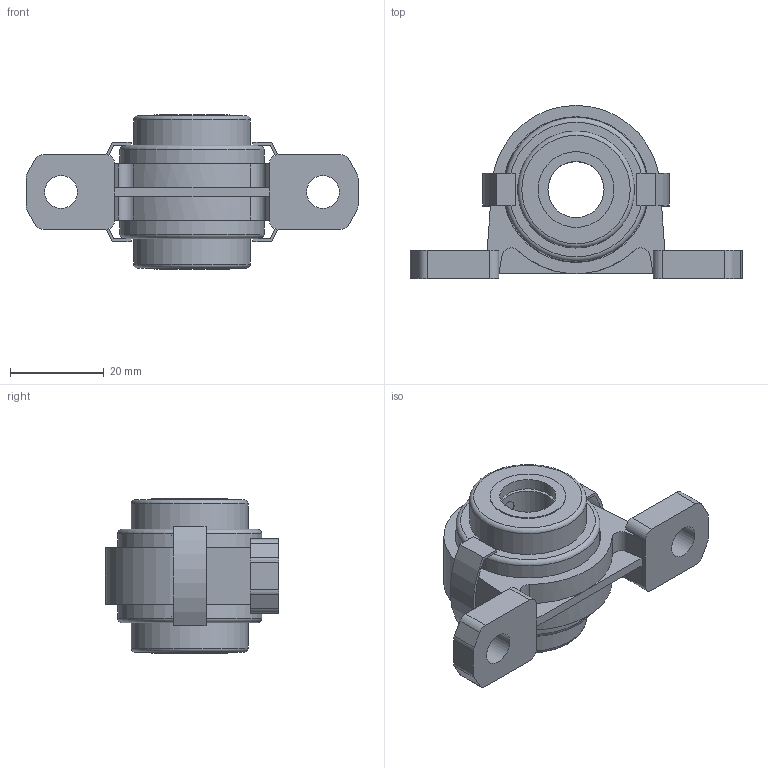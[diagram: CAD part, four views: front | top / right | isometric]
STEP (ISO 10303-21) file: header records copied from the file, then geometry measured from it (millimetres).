
FILE_DESCRIPTION((''),'2;1');
FILE_NAME('\\Ts-tgl068\j-cad-d-base\00.3DCADデータ作成フォルダ\11.エコシリーズ\MUSP000\MUSP001C.stp','2014-11-12T09:22:04',('btec_1106_2'),(''),'Autodesk Inventor 2012','Autodesk Inventor 2012','');
FILE_SCHEMA(('AUTOMOTIVE_DESIGN { 1 0 10303 214 1 1 1 1 }'));
Length unit declared in the file: millimetre
Products named in the file (5): MUSP000C; SP001; U001; 001CP12; 1CLP
Assembly tree (6 placements, depth 2):
  MUSP000C
    SP001
    U001
    001CP12  x2
    1CLP  x2
Bounding box: 71 x 37 x 33 mm (x, y, z)
Volume: 15293 mm3; surface area: 16285.2 mm2
Topology: 6 solids, 6 shells, 135 faces, 308 edges, 200 vertices
Faces by surface type: plane 74, cylinder 48, torus 8, cone 3, sphere 2
Full cylindrical faces by diameter (mm): 3.5 x1, 4 x1, 7 x2, 12 x3, 16.2 x4, 17.4 x1, 19 x1, 24.4 x2, 25 x2, 30.2 x2, 30.8 x2, 31.2 x2
Entity records: 3178 total; most frequent: CARTESIAN_POINT 626, DIRECTION 534, ORIENTED_EDGE 436, EDGE_CURVE 218, AXIS2_PLACEMENT_3D 204, VERTEX_POINT 156, EDGE_LOOP 156, VECTOR 126
